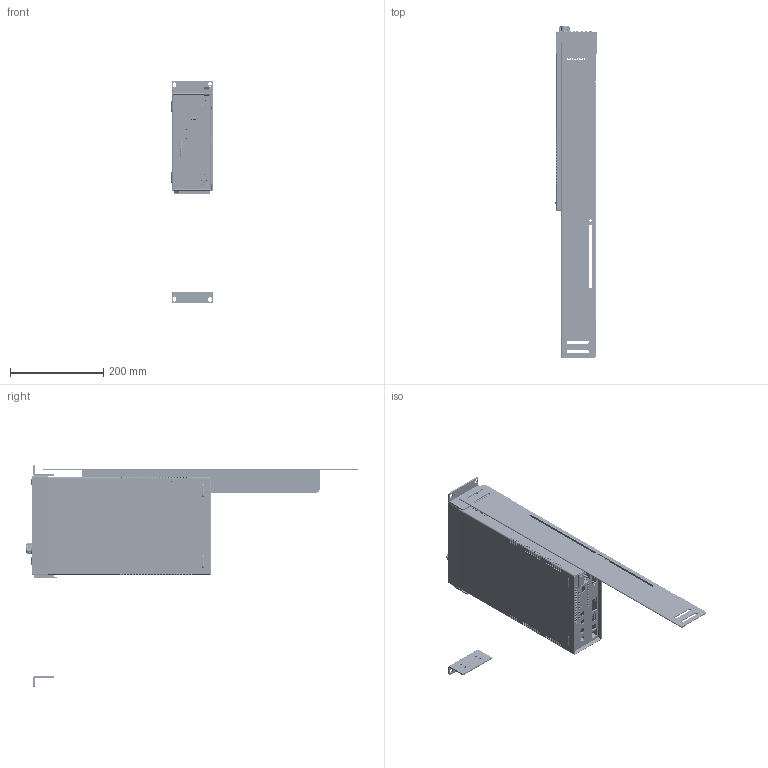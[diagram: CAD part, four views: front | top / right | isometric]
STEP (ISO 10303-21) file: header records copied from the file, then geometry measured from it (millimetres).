
FILE_DESCRIPTION((''),'2;1');
FILE_NAME('4299_ASM','2016-01-05T',('jpeters'),('Keithley Instruments'),'CREO PARAMETRIC BY PTC INC, 2014440','CREO PARAMETRIC BY PTC INC, 2014440','');
FILE_SCHEMA(('CONFIG_CONTROL_DESIGN'));
Length unit declared in the file: inch
Products named in the file (62): 2450-363; 2450-360; 2450-301; PEM-SOS-632-8; PEM-BS-632-2; PEM-BSOS-632-18; PEM-CLS-632-2; PEM-FHS-632-6; PEM-RAS-632-10-8; 2450-301_ASM; 2450-303; PEM-AC-632-2; 2450-303_ASM; LF-11-PURCHPART; 2450-305; 2450-307; 2450-308; 2450-307_ASM; 2450-313; 2450-313-1; 2450-313-2; 2450-314; 2450-313_ASM; 2450-112; PEM-KFB3-632-8; 2450-112-TOP-COMP; 2450-112-BOT-COMP; CS-1649-40; CS-1173-1; CS-1650-6; CS-1665; CS-1664-40; 2450-112_ASM; DD-77; DD-77-GLASS; DD-77_ASM; 2450-FP-INSERT_ASM; 2450-318; 2450-318_ASM; SW-545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
Assembly tree (101 placements, depth 6):
  4299_ASM
    2450-363
    2450-360
    2450_ASM
      2450-301_ASM
        2450-301
        PEM-SOS-632-8  x4
        PEM-BS-632-2  x4
        PEM-BSOS-632-18  x4
        PEM-CLS-632-2  x6
        PEM-FHS-632-6
        PEM-RAS-632-10-8  x3
      2450-303_ASM
        2450-303
        PEM-CLS-632-2  x3
        PEM-AC-632-2
        PEM-BS-632-2  x2
      LF-11-PURCHPART
      2450-FRONT-PANEL-ASSEMBLY_ASM
        2450-305
        2450-FP-INSERT_ASM
          2450-307_ASM
            2450-307
            2450-308
          2450-313_ASM
            2450-313
            2450-313-1
            2450-313-2
            2450-314
          2450-112_ASM
            2450-112
            PEM-KFB3-632-8  x5
            2450-112-TOP-COMP
            2450-112-BOT-COMP
            CS-1649-40
            CS-1173-1
            CS-1650-6
            CS-1665  x4
            CS-1664-40
          DD-77_ASM
            DD-77
            DD-77-GLASS
        2450-318_ASM
          2450-318
          PEM-SOS-632-8  x2
        SW-545_ASM
          SW-545
          SW-545-WASHER
          SW-545-NUT
        2450-306_ASM
          2450-306
          2450-322  x5
        2450-326_ASM
          2450-326
          2450-326-OVERMOLD
        6-32X1-4PPH  x7
      2450-315_ASM
        2450-315
        2450-316
      2450-312
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Bounding box: 89.36 x 713.36 x 478.01 mm (x, y, z)
Volume: 967916.6 mm3; surface area: 1076996.9 mm2
Topology: 84 solids, 84 shells, 11060 faces, 29660 edges, 19057 vertices
Faces by surface type: plane 5607, cylinder 3962, cone 765, torus 303, bspline 258, extrusion 127, sphere 38
Entity records: 332373 total; most frequent: CARTESIAN_POINT 74976, ORIENTED_EDGE 53562, DIRECTION 53080, EDGE_CURVE 26781, VECTOR 17832, LINE 17705, AXIS2_PLACEMENT_3D 17624, VERTEX_POINT 17268
